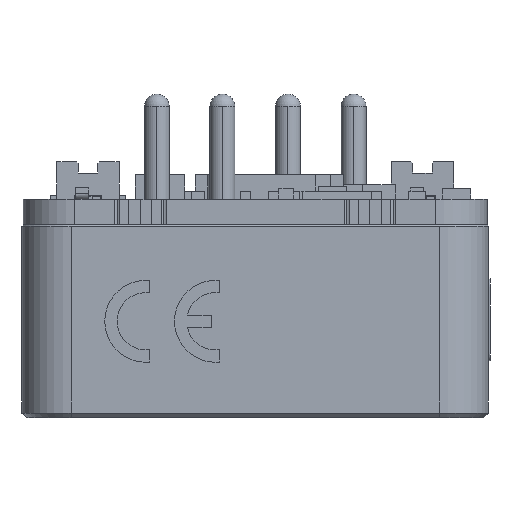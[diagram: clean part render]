
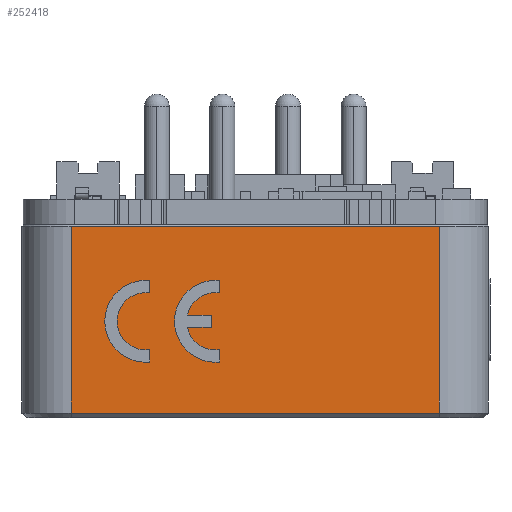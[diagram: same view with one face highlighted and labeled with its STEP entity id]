
A CAD part, left-side view. The second image highlights one B-rep face of the part: STEP entity #252418.
In plain terms, the highlighted planar face has unit normal (-1, 0, 0) as drawn and (1, 0, 0) by its records, which use the part's own axes.
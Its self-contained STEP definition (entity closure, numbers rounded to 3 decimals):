
#1302 = LINE ( 'NONE', #347142, #245094 ) ;
#1669 = ORIENTED_EDGE ( 'NONE', *, *, #134163, .F. ) ;
#4768 = VERTEX_POINT ( 'NONE', #186099 ) ;
#11348 = DIRECTION ( 'NONE',  ( 0., 1., 0. ) ) ;
#12547 = LINE ( 'NONE', #43820, #373958 ) ;
#13205 = DIRECTION ( 'NONE',  ( 0., 0., -1. ) ) ;
#15055 = CARTESIAN_POINT ( 'NONE',  ( 36.95, 8.387, -7.8 ) ) ;
#18414 = CARTESIAN_POINT ( 'NONE',  ( 36.95, 4.168, -7.8 ) ) ;
#39728 = DIRECTION ( 'NONE',  ( 0., 1., 0. ) ) ;
#39954 = CARTESIAN_POINT ( 'NONE',  ( 36.95, 11.7, 0. ) ) ;
#43820 = CARTESIAN_POINT ( 'NONE',  ( 36.95, 4.168, -7.8 ) ) ;
#50253 = AXIS2_PLACEMENT_3D ( 'NONE', #140906, #232550, #201305 ) ;
#51365 = CARTESIAN_POINT ( 'NONE',  ( 36.95, 8.387, -7.8 ) ) ;
#56098 = DIRECTION ( 'NONE',  ( -1., 0., 0. ) ) ;
#64862 = VECTOR ( 'NONE', #154641, 1000. ) ;
#66798 = DIRECTION ( 'NONE',  ( 1., 0., 0. ) ) ;
#68875 = CARTESIAN_POINT ( 'NONE',  ( 36.95, 6.275, -11.55 ) ) ;
#70300 = ORIENTED_EDGE ( 'NONE', *, *, #352306, .F. ) ;
#75747 = CARTESIAN_POINT ( 'NONE',  ( 36.95, 8.387, -12.05 ) ) ;
#81097 = CIRCLE ( 'NONE', #293849, 1.75 ) ;
#83204 = FACE_OUTER_BOUND ( 'NONE', #272346, .T. ) ;
#85200 = VERTEX_POINT ( 'NONE', #320568 ) ;
#89486 = ORIENTED_EDGE ( 'NONE', *, *, #112261, .F. ) ;
#90027 = VECTOR ( 'NONE', #13205, 1000. ) ;
#94780 = EDGE_CURVE ( 'NONE', #171946, #223287, #361169, .T. ) ;
#95870 = EDGE_LOOP ( 'NONE', ( #98132, #268030, #292468, #70300 ) ) ;
#98132 = ORIENTED_EDGE ( 'NONE', *, *, #194558, .F. ) ;
#101046 = VERTEX_POINT ( 'NONE', #364490 ) ;
#106532 = EDGE_CURVE ( 'NONE', #259393, #85200, #337580, .T. ) ;
#107297 = LINE ( 'NONE', #236245, #152278 ) ;
#108306 = LINE ( 'NONE', #68875, #410184 ) ;
#112261 = EDGE_CURVE ( 'NONE', #116226, #410408, #183801, .T. ) ;
#113029 = CARTESIAN_POINT ( 'NONE',  ( 36.95, 3.413, -7.8 ) ) ;
#114591 = CIRCLE ( 'NONE', #267642, 2.5 ) ;
#116226 = VERTEX_POINT ( 'NONE', #343606 ) ;
#120688 = VERTEX_POINT ( 'NONE', #324345 ) ;
#128949 = EDGE_CURVE ( 'NONE', #181126, #252143, #135762, .T. ) ;
#129950 = EDGE_CURVE ( 'NONE', #169498, #259393, #108306, .T. ) ;
#134163 = EDGE_CURVE ( 'NONE', #410408, #410864, #114591, .T. ) ;
#135762 = LINE ( 'NONE', #39954, #283403 ) ;
#137797 = DIRECTION ( 'NONE',  ( 0., 0., 1. ) ) ;
#140906 = CARTESIAN_POINT ( 'NONE',  ( 36.95, 5.9, -11.8 ) ) ;
#143875 = CARTESIAN_POINT ( 'NONE',  ( 36.95, 6.275, -10.091 ) ) ;
#145898 = DIRECTION ( 'NONE',  ( 0., 0., 1. ) ) ;
#152278 = VECTOR ( 'NONE', #11348, 1000. ) ;
#153919 = ORIENTED_EDGE ( 'NONE', *, *, #301989, .T. ) ;
#154641 = DIRECTION ( 'NONE',  ( 0., 1., 0. ) ) ;
#156659 = EDGE_CURVE ( 'NONE', #85200, #116226, #81097, .T. ) ;
#156800 = CARTESIAN_POINT ( 'NONE',  ( 36.95, 5.525, -11.55 ) ) ;
#159795 = ORIENTED_EDGE ( 'NONE', *, *, #325701, .F. ) ;
#165062 = ORIENTED_EDGE ( 'NONE', *, *, #176064, .F. ) ;
#169498 = VERTEX_POINT ( 'NONE', #156800 ) ;
#171946 = VERTEX_POINT ( 'NONE', #51365 ) ;
#172005 = CARTESIAN_POINT ( 'NONE',  ( 36.95, 5.9, -11.8 ) ) ;
#174104 = DIRECTION ( 'NONE',  ( -1., 0., 0. ) ) ;
#174364 = EDGE_CURVE ( 'NONE', #120688, #171946, #269152, .T. ) ;
#176064 = EDGE_CURVE ( 'NONE', #4768, #101046, #183024, .T. ) ;
#181126 = VERTEX_POINT ( 'NONE', #230337 ) ;
#183024 = CIRCLE ( 'NONE', #50253, 1.75 ) ;
#183801 = LINE ( 'NONE', #279626, #64862 ) ;
#185834 = LINE ( 'NONE', #342226, #319242 ) ;
#186099 = CARTESIAN_POINT ( 'NONE',  ( 36.95, 4.168, -12.05 ) ) ;
#190592 = DIRECTION ( 'NONE',  ( 1., 0., 0. ) ) ;
#193346 = EDGE_LOOP ( 'NONE', ( #89486, #225471, #359408, #377040, #159795, #165062, #301999, #1669 ) ) ;
#194558 = EDGE_CURVE ( 'NONE', #223287, #202568, #12547, .T. ) ;
#201305 = DIRECTION ( 'NONE',  ( 0., 0., -1. ) ) ;
#202568 = VERTEX_POINT ( 'NONE', #18414 ) ;
#212982 = DIRECTION ( 'NONE',  ( 0., 0., -1. ) ) ;
#214802 = AXIS2_PLACEMENT_3D ( 'NONE', #317739, #190592, #253219 ) ;
#221389 = VECTOR ( 'NONE', #304512, 1000. ) ;
#223287 = VERTEX_POINT ( 'NONE', #113029 ) ;
#223623 = VERTEX_POINT ( 'NONE', #343009 ) ;
#225471 = ORIENTED_EDGE ( 'NONE', *, *, #156659, .F. ) ;
#230337 = CARTESIAN_POINT ( 'NONE',  ( 36.95, 11.7, -25.45 ) ) ;
#232550 = DIRECTION ( 'NONE',  ( -1., 0., 0. ) ) ;
#233185 = DIRECTION ( 'NONE',  ( 0., 0., -1. ) ) ;
#236245 = CARTESIAN_POINT ( 'NONE',  ( 36.95, 11.8, -25.45 ) ) ;
#237111 = VERTEX_POINT ( 'NONE', #392465 ) ;
#240128 = ORIENTED_EDGE ( 'NONE', *, *, #246051, .T. ) ;
#243315 = DIRECTION ( 'NONE',  ( -1., 0., 0. ) ) ;
#245094 = VECTOR ( 'NONE', #351274, 1000. ) ;
#245372 = CARTESIAN_POINT ( 'NONE',  ( 36.95, 11.8, 0. ) ) ;
#246051 = EDGE_CURVE ( 'NONE', #252143, #223623, #1302, .T. ) ;
#247112 = ORIENTED_EDGE ( 'NONE', *, *, #340482, .T. ) ;
#247464 = PLANE ( 'NONE',  #269446 ) ;
#252143 = VERTEX_POINT ( 'NONE', #410446 ) ;
#252418 = ADVANCED_FACE ( 'NONE', ( #368435, #403795, #83204 ), #247464, .F. ) ;
#253219 = DIRECTION ( 'NONE',  ( 0., 0., 1. ) ) ;
#254647 = AXIS2_PLACEMENT_3D ( 'NONE', #333194, #56098, #306022 ) ;
#257603 = VECTOR ( 'NONE', #145898, 1000. ) ;
#259393 = VERTEX_POINT ( 'NONE', #291277 ) ;
#262479 = CARTESIAN_POINT ( 'NONE',  ( 36.95, 5.9, -11.8 ) ) ;
#267642 = AXIS2_PLACEMENT_3D ( 'NONE', #262479, #66798, #233185 ) ;
#268030 = ORIENTED_EDGE ( 'NONE', *, *, #94780, .F. ) ;
#269152 = LINE ( 'NONE', #15055, #221389 ) ;
#269446 = AXIS2_PLACEMENT_3D ( 'NONE', #245372, #243315, #370460 ) ;
#272346 = EDGE_LOOP ( 'NONE', ( #153919, #323069, #240128, #247112 ) ) ;
#273451 = LINE ( 'NONE', #400651, #308170 ) ;
#279626 = CARTESIAN_POINT ( 'NONE',  ( 36.95, 8.387, -12.05 ) ) ;
#283403 = VECTOR ( 'NONE', #137797, 1000. ) ;
#287108 = CARTESIAN_POINT ( 'NONE',  ( 36.95, 3.413, -12.05 ) ) ;
#289434 = DIRECTION ( 'NONE',  ( 0., 1., 0. ) ) ;
#291277 = CARTESIAN_POINT ( 'NONE',  ( 36.95, 6.275, -11.55 ) ) ;
#292468 = ORIENTED_EDGE ( 'NONE', *, *, #174364, .F. ) ;
#293849 = AXIS2_PLACEMENT_3D ( 'NONE', #172005, #174104, #397048 ) ;
#301989 = EDGE_CURVE ( 'NONE', #237111, #181126, #107297, .T. ) ;
#301999 = ORIENTED_EDGE ( 'NONE', *, *, #315471, .F. ) ;
#302702 = CARTESIAN_POINT ( 'NONE',  ( 36.95, 5.525, -10.091 ) ) ;
#304512 = DIRECTION ( 'NONE',  ( 0., 1., 0. ) ) ;
#306022 = DIRECTION ( 'NONE',  ( 0., 0., 1. ) ) ;
#308170 = VECTOR ( 'NONE', #402650, 1000. ) ;
#315471 = EDGE_CURVE ( 'NONE', #410864, #4768, #273451, .T. ) ;
#317739 = CARTESIAN_POINT ( 'NONE',  ( 36.95, 5.9, -7.55 ) ) ;
#319242 = VECTOR ( 'NONE', #212982, 1000. ) ;
#320568 = CARTESIAN_POINT ( 'NONE',  ( 36.95, 6.275, -10.091 ) ) ;
#323069 = ORIENTED_EDGE ( 'NONE', *, *, #128949, .T. ) ;
#324345 = CARTESIAN_POINT ( 'NONE',  ( 36.95, 7.632, -7.8 ) ) ;
#325701 = EDGE_CURVE ( 'NONE', #101046, #169498, #331859, .T. ) ;
#331859 = LINE ( 'NONE', #302702, #90027 ) ;
#333194 = CARTESIAN_POINT ( 'NONE',  ( 36.95, 5.9, -7.55 ) ) ;
#337580 = LINE ( 'NONE', #143875, #257603 ) ;
#340482 = EDGE_CURVE ( 'NONE', #223623, #237111, #185834, .T. ) ;
#342226 = CARTESIAN_POINT ( 'NONE',  ( 36.95, 0.3, -25.45 ) ) ;
#343009 = CARTESIAN_POINT ( 'NONE',  ( 36.95, 0.3, -3. ) ) ;
#343606 = CARTESIAN_POINT ( 'NONE',  ( 36.95, 7.632, -12.05 ) ) ;
#347142 = CARTESIAN_POINT ( 'NONE',  ( 36.95, 11.8, -3. ) ) ;
#351274 = DIRECTION ( 'NONE',  ( 0., -1., 0. ) ) ;
#352306 = EDGE_CURVE ( 'NONE', #202568, #120688, #374120, .T. ) ;
#359408 = ORIENTED_EDGE ( 'NONE', *, *, #106532, .F. ) ;
#361169 = CIRCLE ( 'NONE', #214802, 2.5 ) ;
#364490 = CARTESIAN_POINT ( 'NONE',  ( 36.95, 5.525, -10.091 ) ) ;
#368435 = FACE_BOUND ( 'NONE', #95870, .T. ) ;
#370460 = DIRECTION ( 'NONE',  ( 0., 0., 1. ) ) ;
#373958 = VECTOR ( 'NONE', #39728, 1000. ) ;
#374120 = CIRCLE ( 'NONE', #254647, 1.75 ) ;
#377040 = ORIENTED_EDGE ( 'NONE', *, *, #129950, .F. ) ;
#392465 = CARTESIAN_POINT ( 'NONE',  ( 36.95, 0.3, -25.45 ) ) ;
#397048 = DIRECTION ( 'NONE',  ( 0., 0., -1. ) ) ;
#400651 = CARTESIAN_POINT ( 'NONE',  ( 36.95, 4.168, -12.05 ) ) ;
#402650 = DIRECTION ( 'NONE',  ( 0., 1., 0. ) ) ;
#403795 = FACE_BOUND ( 'NONE', #193346, .T. ) ;
#410184 = VECTOR ( 'NONE', #289434, 1000. ) ;
#410408 = VERTEX_POINT ( 'NONE', #75747 ) ;
#410446 = CARTESIAN_POINT ( 'NONE',  ( 36.95, 11.7, -3. ) ) ;
#410864 = VERTEX_POINT ( 'NONE', #287108 ) ;
